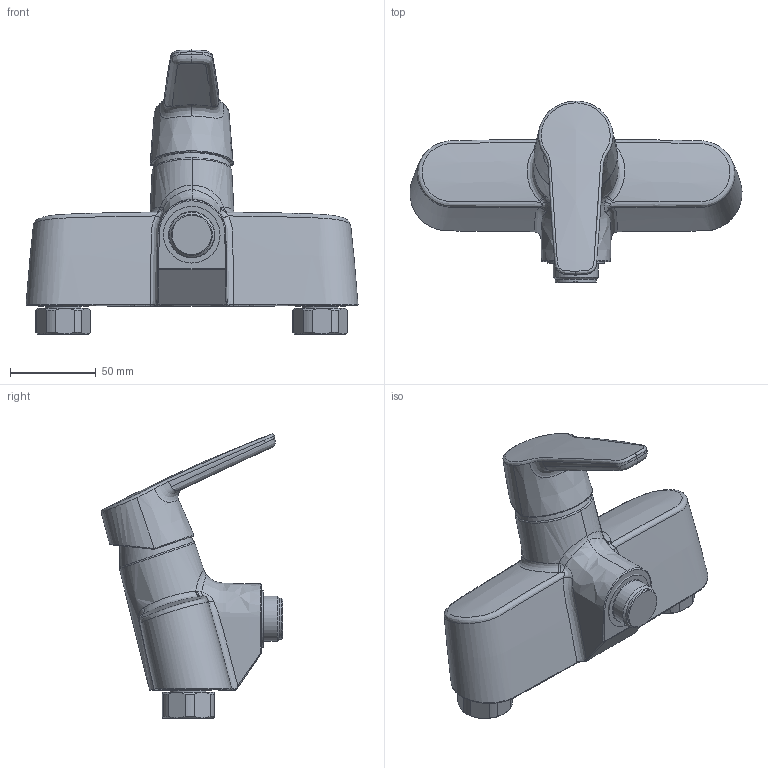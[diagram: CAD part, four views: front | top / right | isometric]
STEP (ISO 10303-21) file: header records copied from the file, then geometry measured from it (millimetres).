
FILE_DESCRIPTION (( 'STEP AP203' ), '1' );
FILE_NAME ('3970(2016).STEP', '2017-03-09T05:52:14', ( '' ), ( '' ), 'SwSTEP 2.0', 'SolidWorks 2016', '' );
FILE_SCHEMA (( 'CONFIG_CONTROL_DESIGN' ));
Length unit declared in the file: millimetre
Products named in the file (1): 3970(2016)
Bounding box: 193.8 x 106.03 x 165.8 mm (x, y, z)
Volume: 606033.7 mm3; surface area: 66252.1 mm2
Topology: 2 solids, 2 shells, 172 faces, 411 edges, 257 vertices
Faces by surface type: bspline 78, plane 34, cylinder 29, cone 29, torus 2
Full cylindrical faces by diameter (mm): 12.5 x2, 21.2 x2, 24 x3, 25 x1, 26 x2, 26.441 x1, 29 x2, 33 x1
Entity records: 28353 total; most frequent: CARTESIAN_POINT 25136, ORIENTED_EDGE 750, DIRECTION 439, EDGE_CURVE 375, VERTEX_POINT 246, B_SPLINE_CURVE_WITH_KNOTS 229, EDGE_LOOP 211, AXIS2_PLACEMENT_3D 201
